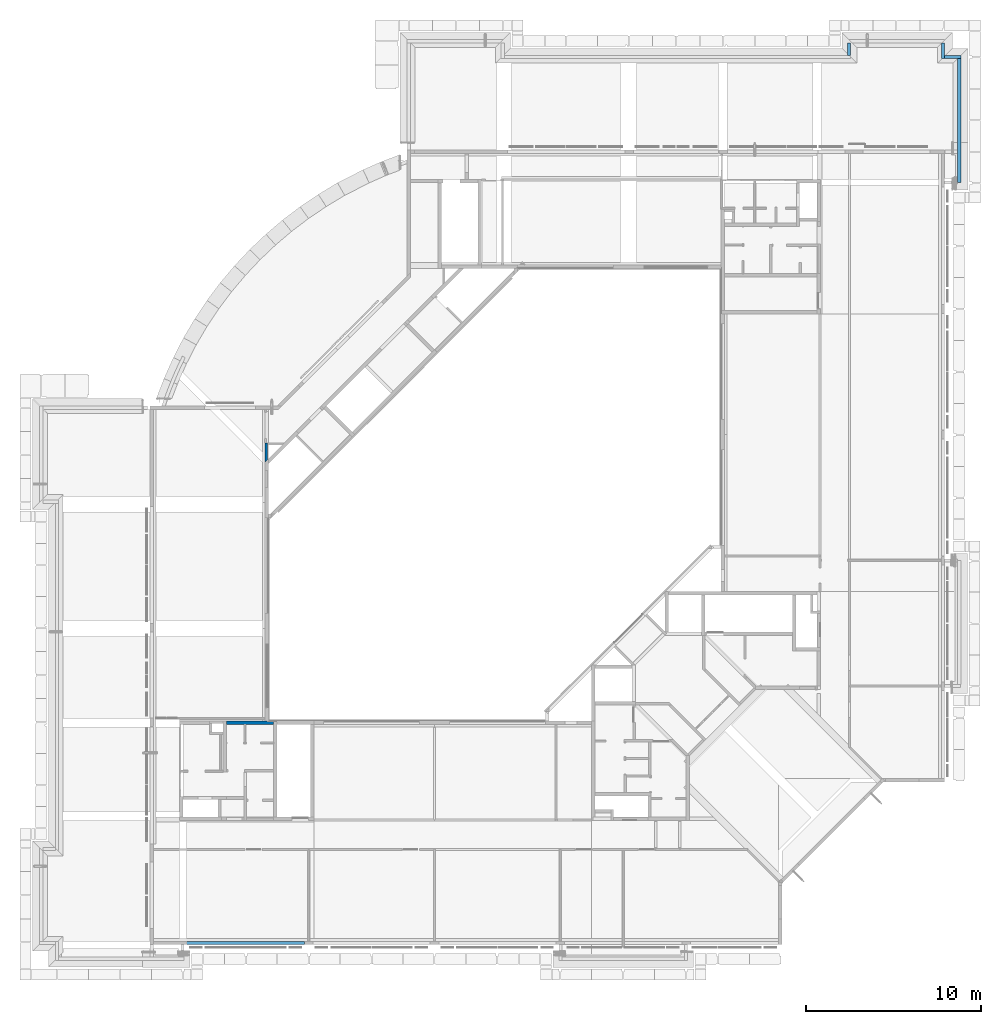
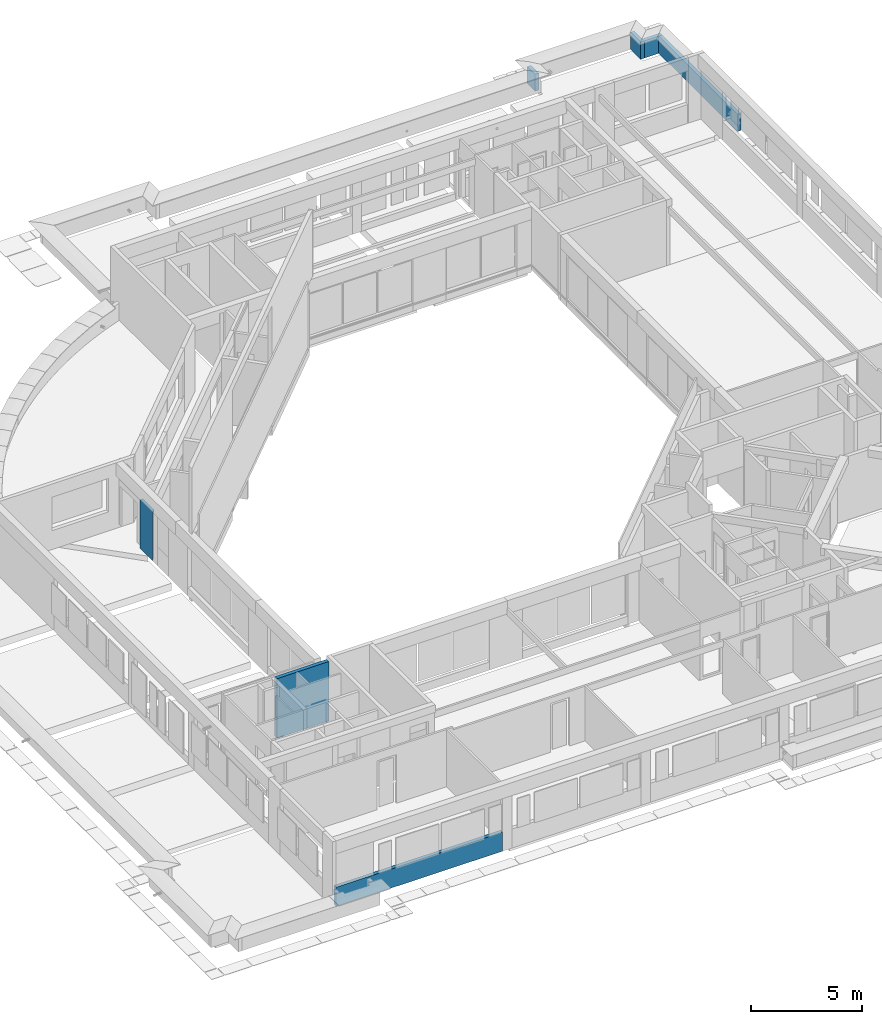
# One storey, part 17 of 38: 7 walls.
"""IFC4X3_ADD2 building model written with IfcOpenShell, lengths in millimetres."""

from ifc_helpers import new_model, si_unit, direction, frame, frame_2d, origin_with_axes, origin_2d_with_axis, place, context, subcontext, project, spatial, rectangle, extrude, polygons, material, type_object, element, save


model = new_model("IFC4X3_ADD2")

# Units and contexts
model_context = context("Model", 3, precision=1e-05, world=origin_with_axes(), true_north=direction((0.0, 1.0)))
body_context = subcontext(model_context, "Body", "Model", "MODEL_VIEW")
ifc_project = project(units=[si_unit("LENGTHUNIT", "METRE", prefix="MILLI"), si_unit("AREAUNIT", "SQUARE_METRE"), si_unit("VOLUMEUNIT", "CUBIC_METRE"), si_unit("PLANEANGLEUNIT", "RADIAN"), si_unit("TIMEUNIT", "SECOND"), si_unit("MASSUNIT", "GRAM")], contexts=[model_context])

# Site, building, storey
site_placement = place(None, origin_with_axes())
site = spatial("IfcSite", under=ifc_project, at=site_placement, Name="Site", CompositionType="ELEMENT")
building_placement = place(site_placement, origin_with_axes())
building = spatial("IfcBuilding", under=site, at=building_placement, Name="IFC Building Story")
storey_placement = place(building_placement, frame((0.0, 0.0, 10800.0), z_axis=(0.0, 0.0, 1.0), x_axis=(1.0, 0.0, 0.0)))
storey = spatial("IfcBuildingStorey", under=building, at=storey_placement, Name="030", Elevation=10800.0)

# Walls
ifc_material_1 = material(Name="BB_Beton_Bestaand")
wall_type_1 = type_object("IfcWallType", Name="BB_Beton_Bestaand 190", PredefinedType="NOTDEFINED", material=ifc_material_1)
wall_1_placement = place(storey_placement, origin_with_axes())
element("IfcWall", 1, at=wall_1_placement, inside=storey, type_object=wall_type_1, Name="Basic Wall:BB_XX_Wand uit beton, 190 mm", ObjectType="Basic Wall:BB_XX_Wand uit beton, 190 mm", PredefinedType="SOLIDWALL", context=body_context, shape_type="SweptSolid", body=[
    extrude(rectangle(XDim=899.9999999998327, YDim=190.0, at=frame_2d((0.0, 0.0), x_axis=(0.0, 1.0))), frame((0.0, 51055.00000000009, -200.0), z_axis=(0.0, 0.0, 1.0), x_axis=(1.0, 0.0, 0.0)), (0.0, 0.0, 1.0), 940.000000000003),
])
wall_2_placement = place(storey_placement, origin_with_axes())
element("IfcWall", 2, at=wall_2_placement, inside=storey, type_object=wall_type_1, Name="Basic Wall:BB_XX_Wand uit beton, 190 mm", ObjectType="Basic Wall:BB_XX_Wand uit beton, 190 mm", PredefinedType="SOLIDWALL", context=body_context, shape_type="SweptSolid", body=[
    extrude(rectangle(XDim=935.000000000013, YDim=189.9999999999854, at=origin_2d_with_axis()), frame((562.5000000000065, 50700.0, -200.0), z_axis=(0.0, 0.0, 1.0), x_axis=(1.0, 0.0, 0.0)), (0.0, 0.0, 1.0), 940.000000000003),
])
wall_3_placement = place(storey_placement, origin_with_axes())
element("IfcWall", 3, at=wall_3_placement, inside=storey, type_object=wall_type_1, Name="Basic Wall:BB_XX_Wand uit beton, 190 mm", ObjectType="Basic Wall:BB_XX_Wand uit beton, 190 mm", PredefinedType="SOLIDWALL", context=body_context, shape_type="SweptSolid", body=[
    extrude(rectangle(XDim=7095.260388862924, YDim=190.0, at=frame_2d((0.0, 0.0), x_axis=(0.0, 1.0))), frame((935.0, 47057.36980556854, -200.0), z_axis=(0.0, 0.0, 1.0), x_axis=(1.0, 0.0, 0.0)), (0.0, 0.0, 1.0), 940.000000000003),
])
ifc_material_2 = material(Name="BB_Metselwerk_Betonsteen")
wall_type_2 = type_object("IfcWallType", Name="BB_Metselwerk_Betonsteen 190", PredefinedType="NOTDEFINED", material=ifc_material_2)
wall_4_placement = place(storey_placement, origin_with_axes())
element("IfcWall", 4, at=wall_4_placement, inside=storey, type_object=wall_type_2, Name="Basic Wall:BB_03.09.24#03_Wand uit metselwerk, 190 mm", ObjectType="Basic Wall:BB_03.09.24#03_Wand uit metselwerk, 190 mm", PredefinedType="SOLIDWALL", context=body_context, shape_type="SweptSolid", body=[
    extrude(rectangle(XDim=709.999999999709, YDim=190.0, at=frame_2d((0.0, 0.0), x_axis=(0.0, 1.0))), frame((-5380.0, 51149.99999999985, -200.0), z_axis=(0.0, 0.0, 1.0), x_axis=(1.0, 0.0, 0.0)), (0.0, 0.0, 1.0), 940.000000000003),
])
wall_5_placement = place(storey_placement, frame((0.0, 0.0, -10800.0), z_axis=(0.0, 0.0, 1.0), x_axis=(1.0, 0.0, 0.0)))
element("IfcWall", 5, at=wall_5_placement, inside=storey, Name="Basic Wall:BB_XX_Wand uit metselwerk, 140 mm", ObjectType="Basic Wall:BB_XX_Wand uit metselwerk, 140 mm", PredefinedType="SOLIDWALL", context=body_context, shape_type="Tessellation", body=[
    polygons([(-38655.0, 28624.00000000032, 10600.0), (-38655.0, 28624.00000000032, 13289.99999999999), (-38655.0, 27640.8369439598, 13289.99999999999), (-38655.0, 27640.8369439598, 10600.0), (-38655.0, 28484.00000000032, 10600.0), (-38795.0, 28624.00000000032, 13289.99999999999), (-38795.0, 28624.00000000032, 10600.0), (-38795.0, 27500.8369439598, 10600.0), (-38795.0, 27500.8369439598, 13289.99999999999)], [[[5, 1, 2]], [[2, 3, 4]], [[2, 4, 5]], [[6, 7, 8, 9]], [[5, 4, 8]], [[5, 8, 7]], [[7, 1, 5]], [[2, 6, 9, 3]], [[2, 1, 7, 6]], [[4, 3, 9, 8]]]),
])
wall_6_placement = place(storey_placement, frame((0.0, 0.0, -10800.0), z_axis=(0.0, 0.0, 1.0), x_axis=(1.0, 0.0, 0.0)))
element("IfcWall", 6, at=wall_6_placement, inside=storey, Name="Basic Wall:BB_XX_Wand uit beton, 190 mm", ObjectType="Basic Wall:BB_XX_Wand uit beton, 190 mm", PredefinedType="SOLIDWALL", context=body_context, shape_type="Tessellation", body=[
    polygons([(-36545.00000000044, -95.0, 10600.0), (-36545.00000000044, -95.0, 11640.0), (-45190.0, -95.0, 11640.0), (-45190.0, -95.0, 10600.0), (-36545.00000000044, 95.0, 11640.0), (-36545.00000000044, 95.0, 10600.0), (-45190.0, 95.0, 10600.0), (-45190.0, 95.0, 11640.0)], [[[1, 2, 3, 4]], [[5, 6, 7, 8]], [[6, 1, 4, 7]], [[2, 1, 6, 5]], [[2, 5, 8, 3]], [[4, 3, 8, 7]]]),
])
wall_7_placement = place(storey_placement, frame((0.0, 0.0, -10800.0), z_axis=(0.0, 0.0, 1.0), x_axis=(1.0, 0.0, 0.0)))
element("IfcWall", 7, at=wall_7_placement, inside=storey, Name="Basic Wall:BB_XX_Wand uit metselwerk, 190 mm", ObjectType="Basic Wall:BB_XX_Wand uit metselwerk, 190 mm", PredefinedType="SOLIDWALL", context=body_context, shape_type="Tessellation", body=[
    polygons([(-38300.00000000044, 12510.004065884, 10720.0), (-38300.00000000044, 12510.004065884, 13990.0), (-41000.0, 12510.004065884, 13990.0), (-41000.0, 12510.004065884, 10720.0), (-38300.00000000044, 12700.004065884, 13990.0), (-38300.00000000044, 12700.004065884, 10720.0), (-41000.0, 12700.004065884, 10720.0), (-41000.0, 12700.004065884, 13990.0)], [[[1, 2, 3, 4]], [[5, 6, 7, 8]], [[6, 1, 4, 7]], [[2, 1, 6, 5]], [[2, 5, 8, 3]], [[4, 3, 8, 7]]]),
])

save(model, "model.ifc")
